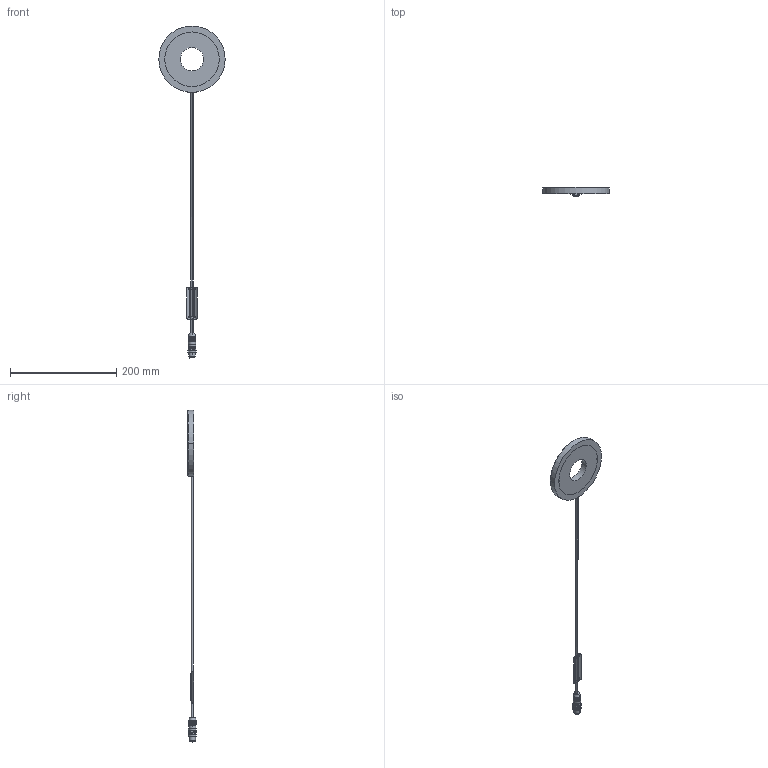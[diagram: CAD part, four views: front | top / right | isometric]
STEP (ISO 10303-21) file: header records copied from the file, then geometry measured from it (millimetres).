
FILE_DESCRIPTION (( 'STEP AP203' ), '1' );
FILE_NAME ('CV-FR-125X44#-M12(IMC-FR-125X44#-M).STEP', '2024-04-20T09:16:59', ( '' ), ( '' ), 'SwSTEP 2.0', 'SolidWorks 2023', '' );
FILE_SCHEMA (( 'CONFIG_CONTROL_DESIGN' ));
Length unit declared in the file: millimetre
Products named in the file (1): CV-FR-125X44#-M12(IMC-FR-125X44#-M)
Bounding box: 125 x 16.65 x 625 mm (x, y, z)
Volume: 141361.7 mm3; surface area: 39549.4 mm2
Topology: 2 solids, 6 shells, 852 faces, 2361 edges, 1544 vertices
Faces by surface type: cylinder 342, plane 322, bspline 122, cone 42, torus 24
Entity records: 31144 total; most frequent: CARTESIAN_POINT 9788, ORIENTED_EDGE 4714, DIRECTION 4153, EDGE_CURVE 2357, VERTEX_POINT 1544, AXIS2_PLACEMENT_3D 1511, VECTOR 1131, LINE 1131
